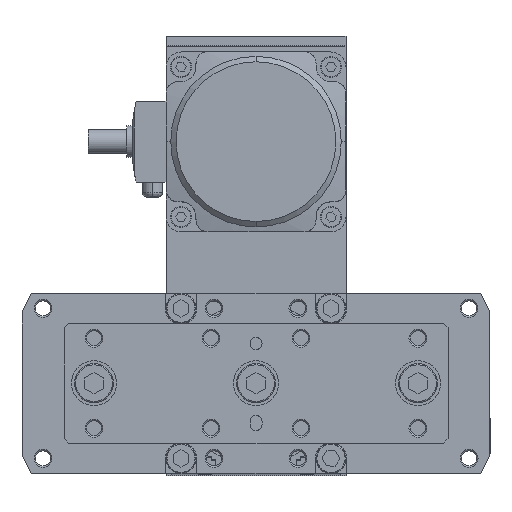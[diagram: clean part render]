
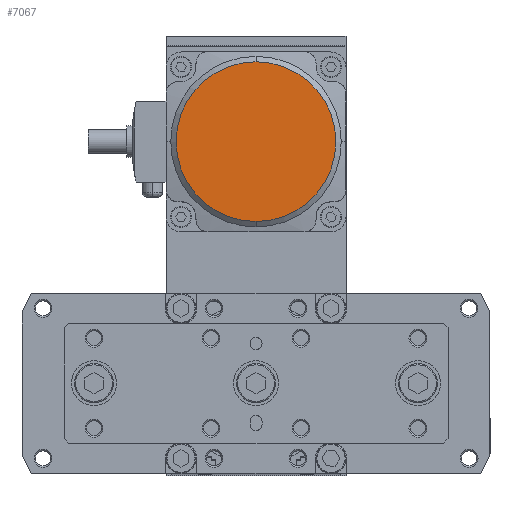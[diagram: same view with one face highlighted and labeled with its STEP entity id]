
A CAD part, top view. The second image highlights one B-rep face of the part: STEP entity #7067.
In plain terms, the highlighted planar face has unit normal (0, 0, 1).
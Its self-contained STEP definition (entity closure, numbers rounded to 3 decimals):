
#3120 = FACE_OUTER_BOUND ( 'NONE', #16073, .T. ) ;
#5216 = CARTESIAN_POINT ( 'NONE',  ( 187.19, 50.353, 64.5 ) ) ;
#6266 = AXIS2_PLACEMENT_3D ( 'NONE', #10656, #10657, #10668 ) ;
#7067 = ADVANCED_FACE ( 'NONE', ( #3120 ), #10669, .F. ) ;
#7511 = AXIS2_PLACEMENT_3D ( 'NONE', #26539, #26823, #26819 ) ;
#7806 = CIRCLE ( 'NONE', #7808, 26.616 ) ;
#7808 = AXIS2_PLACEMENT_3D ( 'NONE', #31609, #31608, #31610 ) ;
#7901 = CIRCLE ( 'NONE', #7511, 26.616 ) ;
#10656 = CARTESIAN_POINT ( 'NONE',  ( 187.19, 76.969, 64.5 ) ) ;
#10657 = DIRECTION ( 'NONE',  ( 0., 0., -1. ) ) ;
#10668 = DIRECTION ( 'NONE',  ( 0., 1., 0. ) ) ;
#10669 = PLANE ( 'NONE',  #6266 ) ;
#14481 = VERTEX_POINT ( 'NONE', #19545 ) ;
#16073 = EDGE_LOOP ( 'NONE', ( #32757, #20518 ) ) ;
#19545 = CARTESIAN_POINT ( 'NONE',  ( 187.19, 103.585, 64.5 ) ) ;
#20518 = ORIENTED_EDGE ( 'NONE', *, *, #31160, .F. ) ;
#20613 = VERTEX_POINT ( 'NONE', #5216 ) ;
#26539 = CARTESIAN_POINT ( 'NONE',  ( 187.19, 76.969, 64.5 ) ) ;
#26819 = DIRECTION ( 'NONE',  ( 0., 1., 0. ) ) ;
#26823 = DIRECTION ( 'NONE',  ( 0., 0., -1. ) ) ;
#30506 = EDGE_CURVE ( 'NONE', #14481, #20613, #7901, .T. ) ;
#31160 = EDGE_CURVE ( 'NONE', #20613, #14481, #7806, .T. ) ;
#31608 = DIRECTION ( 'NONE',  ( 0., 0., -1. ) ) ;
#31609 = CARTESIAN_POINT ( 'NONE',  ( 187.19, 76.969, 64.5 ) ) ;
#31610 = DIRECTION ( 'NONE',  ( 0., 1., 0. ) ) ;
#32757 = ORIENTED_EDGE ( 'NONE', *, *, #30506, .F. ) ;
